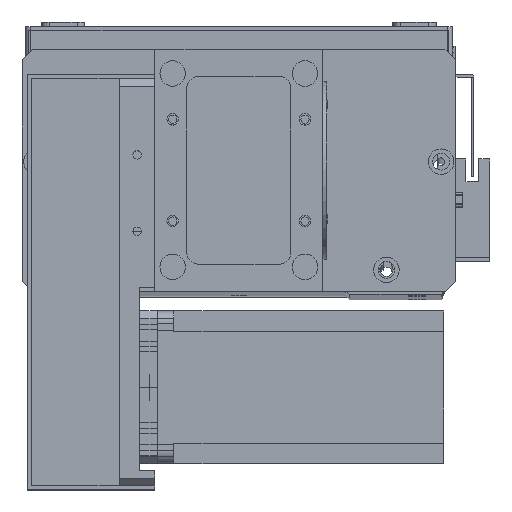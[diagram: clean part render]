
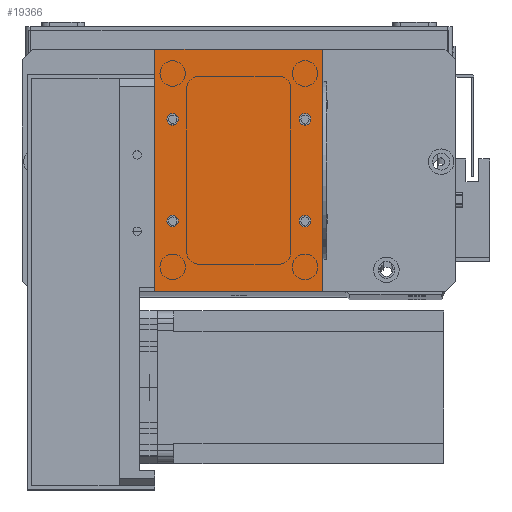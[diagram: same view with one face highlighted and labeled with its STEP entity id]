
A CAD part, top view. The second image highlights one B-rep face of the part: STEP entity #19366.
In plain terms, the highlighted planar face has unit normal (0, 0, 1).
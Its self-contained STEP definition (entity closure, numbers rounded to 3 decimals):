
#513 = CIRCLE ( 'NONE', #30327, 2.25 ) ;
#532 = AXIS2_PLACEMENT_3D ( 'NONE', #12402, #29687, #14881 ) ;
#595 = ORIENTED_EDGE ( 'NONE', *, *, #30952, .F. ) ;
#609 = VERTEX_POINT ( 'NONE', #20950 ) ;
#1979 = EDGE_CURVE ( 'NONE', #609, #7147, #23754, .T. ) ;
#2393 = EDGE_CURVE ( 'NONE', #2911, #19585, #12126, .T. ) ;
#2880 = CARTESIAN_POINT ( 'NONE',  ( 66., 0., 2. ) ) ;
#2911 = VERTEX_POINT ( 'NONE', #5737 ) ;
#3374 = ORIENTED_EDGE ( 'NONE', *, *, #1979, .T. ) ;
#3431 = VECTOR ( 'NONE', #20101, 1000. ) ;
#3566 = VERTEX_POINT ( 'NONE', #10617 ) ;
#3834 = DIRECTION ( 'NONE',  ( 0., 0., 1. ) ) ;
#3990 = DIRECTION ( 'NONE',  ( 0., 0., -1. ) ) ;
#4200 = CARTESIAN_POINT ( 'NONE',  ( 56.75, 67.5, 2. ) ) ;
#4212 = LINE ( 'NONE', #17648, #3431 ) ;
#4258 = CARTESIAN_POINT ( 'NONE',  ( 59., 67.5, 2. ) ) ;
#4283 = EDGE_CURVE ( 'NONE', #28642, #3566, #20906, .T. ) ;
#4736 = CARTESIAN_POINT ( 'NONE',  ( 56.75, 27.5, 2. ) ) ;
#4868 = VERTEX_POINT ( 'NONE', #28464 ) ;
#5209 = VECTOR ( 'NONE', #18170, 1000. ) ;
#5260 = FACE_BOUND ( 'NONE', #21565, .T. ) ;
#5575 = CARTESIAN_POINT ( 'NONE',  ( 7., 27.5, 2. ) ) ;
#5649 = VERTEX_POINT ( 'NONE', #32089 ) ;
#5659 = CARTESIAN_POINT ( 'NONE',  ( 0., 0., 2. ) ) ;
#5737 = CARTESIAN_POINT ( 'NONE',  ( 61.25, 27.5, 2. ) ) ;
#6239 = EDGE_LOOP ( 'NONE', ( #16140, #9026 ) ) ;
#6263 = CIRCLE ( 'NONE', #532, 2.25 ) ;
#6622 = ORIENTED_EDGE ( 'NONE', *, *, #20254, .T. ) ;
#6751 = DIRECTION ( 'NONE',  ( 1., 0., 0. ) ) ;
#7087 = AXIS2_PLACEMENT_3D ( 'NONE', #4258, #21584, #6751 ) ;
#7141 = ORIENTED_EDGE ( 'NONE', *, *, #20302, .F. ) ;
#7147 = VERTEX_POINT ( 'NONE', #26889 ) ;
#7174 = CARTESIAN_POINT ( 'NONE',  ( 7., 27.5, 2. ) ) ;
#8068 = DIRECTION ( 'NONE',  ( 1., 0., 0. ) ) ;
#8275 = EDGE_CURVE ( 'NONE', #3566, #28642, #20403, .T. ) ;
#8564 = DIRECTION ( 'NONE',  ( 0., 0., 1. ) ) ;
#8915 = AXIS2_PLACEMENT_3D ( 'NONE', #18715, #3834, #21178 ) ;
#9026 = ORIENTED_EDGE ( 'NONE', *, *, #13267, .F. ) ;
#9077 = EDGE_CURVE ( 'NONE', #24116, #30469, #25004, .T. ) ;
#9349 = AXIS2_PLACEMENT_3D ( 'NONE', #16374, #3990, #21333 ) ;
#9674 = DIRECTION ( 'NONE',  ( 1., 0., 0. ) ) ;
#10414 = DIRECTION ( 'NONE',  ( 0., 0., 1. ) ) ;
#10606 = CARTESIAN_POINT ( 'NONE',  ( 59., 27.5, 2. ) ) ;
#10617 = CARTESIAN_POINT ( 'NONE',  ( 61.25, 67.5, 2. ) ) ;
#11107 = FACE_OUTER_BOUND ( 'NONE', #19338, .T. ) ;
#11883 = FACE_BOUND ( 'NONE', #21563, .T. ) ;
#11902 = AXIS2_PLACEMENT_3D ( 'NONE', #5575, #22901, #8068 ) ;
#12126 = CIRCLE ( 'NONE', #19738, 2.25 ) ;
#12395 = ORIENTED_EDGE ( 'NONE', *, *, #8275, .F. ) ;
#12402 = CARTESIAN_POINT ( 'NONE',  ( 59., 27.5, 2. ) ) ;
#13267 = EDGE_CURVE ( 'NONE', #26989, #23124, #24225, .T. ) ;
#13577 = AXIS2_PLACEMENT_3D ( 'NONE', #7174, #24522, #9674 ) ;
#13933 = ORIENTED_EDGE ( 'NONE', *, *, #4283, .F. ) ;
#14278 = EDGE_CURVE ( 'NONE', #23124, #26989, #513, .T. ) ;
#14659 = LINE ( 'NONE', #30759, #27852 ) ;
#14881 = DIRECTION ( 'NONE',  ( 1., 0., 0. ) ) ;
#15487 = CIRCLE ( 'NONE', #13577, 2.25 ) ;
#15953 = DIRECTION ( 'NONE',  ( 0., 1., 0. ) ) ;
#16140 = ORIENTED_EDGE ( 'NONE', *, *, #14278, .F. ) ;
#16374 = CARTESIAN_POINT ( 'NONE',  ( 0., 0., 2. ) ) ;
#16814 = EDGE_LOOP ( 'NONE', ( #7141, #595 ) ) ;
#16896 = ORIENTED_EDGE ( 'NONE', *, *, #2393, .F. ) ;
#17648 = CARTESIAN_POINT ( 'NONE',  ( 0., 0., 2. ) ) ;
#17716 = FACE_BOUND ( 'NONE', #6239, .T. ) ;
#18170 = DIRECTION ( 'NONE',  ( 1., 0., 0. ) ) ;
#18306 = DIRECTION ( 'NONE',  ( 0., 0., 1. ) ) ;
#18715 = CARTESIAN_POINT ( 'NONE',  ( 7., 67.5, 2. ) ) ;
#19338 = EDGE_LOOP ( 'NONE', ( #6622, #28692, #23918, #3374 ) ) ;
#19366 = ADVANCED_FACE ( 'NONE', ( #17716, #11883, #5260, #24275, #11107 ), #26255, .F. ) ;
#19585 = VERTEX_POINT ( 'NONE', #4736 ) ;
#19738 = AXIS2_PLACEMENT_3D ( 'NONE', #10606, #18306, #24932 ) ;
#20101 = DIRECTION ( 'NONE',  ( 0., -1., 0. ) ) ;
#20132 = CARTESIAN_POINT ( 'NONE',  ( 9.25, 67.5, 2. ) ) ;
#20254 = EDGE_CURVE ( 'NONE', #7147, #24116, #4212, .T. ) ;
#20302 = EDGE_CURVE ( 'NONE', #4868, #5649, #21638, .T. ) ;
#20403 = CIRCLE ( 'NONE', #27319, 2.25 ) ;
#20906 = CIRCLE ( 'NONE', #7087, 2.25 ) ;
#20950 = CARTESIAN_POINT ( 'NONE',  ( 66., 95., 2. ) ) ;
#21092 = EDGE_CURVE ( 'NONE', #30469, #609, #14659, .T. ) ;
#21178 = DIRECTION ( 'NONE',  ( 1., 0., 0. ) ) ;
#21333 = DIRECTION ( 'NONE',  ( -1., 0., 0. ) ) ;
#21563 = EDGE_LOOP ( 'NONE', ( #12395, #13933 ) ) ;
#21565 = EDGE_LOOP ( 'NONE', ( #16896, #30731 ) ) ;
#21584 = DIRECTION ( 'NONE',  ( 0., 0., 1. ) ) ;
#21638 = CIRCLE ( 'NONE', #11902, 2.25 ) ;
#22631 = DIRECTION ( 'NONE',  ( -1., 0., 0. ) ) ;
#22722 = CARTESIAN_POINT ( 'NONE',  ( 0., 95., 2. ) ) ;
#22901 = DIRECTION ( 'NONE',  ( 0., 0., 1. ) ) ;
#23124 = VERTEX_POINT ( 'NONE', #20132 ) ;
#23397 = CARTESIAN_POINT ( 'NONE',  ( 59., 67.5, 2. ) ) ;
#23754 = LINE ( 'NONE', #22722, #29556 ) ;
#23918 = ORIENTED_EDGE ( 'NONE', *, *, #21092, .T. ) ;
#24116 = VERTEX_POINT ( 'NONE', #31413 ) ;
#24225 = CIRCLE ( 'NONE', #8915, 2.25 ) ;
#24275 = FACE_BOUND ( 'NONE', #16814, .T. ) ;
#24522 = DIRECTION ( 'NONE',  ( 0., 0., 1. ) ) ;
#24932 = DIRECTION ( 'NONE',  ( 1., 0., 0. ) ) ;
#25004 = LINE ( 'NONE', #5659, #5209 ) ;
#25248 = CARTESIAN_POINT ( 'NONE',  ( 7., 67.5, 2. ) ) ;
#25322 = EDGE_CURVE ( 'NONE', #19585, #2911, #6263, .T. ) ;
#25936 = DIRECTION ( 'NONE',  ( 1., 0., 0. ) ) ;
#26255 = PLANE ( 'NONE',  #9349 ) ;
#26889 = CARTESIAN_POINT ( 'NONE',  ( 0., 95., 2. ) ) ;
#26989 = VERTEX_POINT ( 'NONE', #29106 ) ;
#27319 = AXIS2_PLACEMENT_3D ( 'NONE', #23397, #8564, #25936 ) ;
#27763 = DIRECTION ( 'NONE',  ( 1., 0., 0. ) ) ;
#27852 = VECTOR ( 'NONE', #15953, 1000. ) ;
#28464 = CARTESIAN_POINT ( 'NONE',  ( 9.25, 27.5, 2. ) ) ;
#28642 = VERTEX_POINT ( 'NONE', #4200 ) ;
#28692 = ORIENTED_EDGE ( 'NONE', *, *, #9077, .T. ) ;
#29106 = CARTESIAN_POINT ( 'NONE',  ( 4.75, 67.5, 2. ) ) ;
#29556 = VECTOR ( 'NONE', #22631, 1000. ) ;
#29687 = DIRECTION ( 'NONE',  ( 0., 0., 1. ) ) ;
#30327 = AXIS2_PLACEMENT_3D ( 'NONE', #25248, #10414, #27763 ) ;
#30469 = VERTEX_POINT ( 'NONE', #2880 ) ;
#30731 = ORIENTED_EDGE ( 'NONE', *, *, #25322, .F. ) ;
#30759 = CARTESIAN_POINT ( 'NONE',  ( 66., 0., 2. ) ) ;
#30952 = EDGE_CURVE ( 'NONE', #5649, #4868, #15487, .T. ) ;
#31413 = CARTESIAN_POINT ( 'NONE',  ( 0., 0., 2. ) ) ;
#32089 = CARTESIAN_POINT ( 'NONE',  ( 4.75, 27.5, 2. ) ) ;
